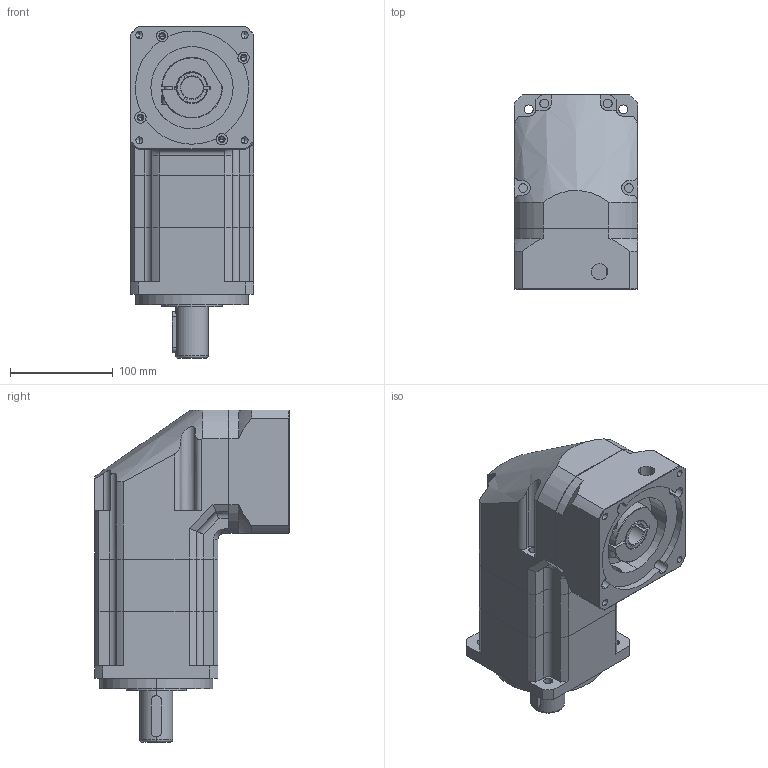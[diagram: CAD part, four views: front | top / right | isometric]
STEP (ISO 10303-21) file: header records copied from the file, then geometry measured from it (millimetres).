
FILE_DESCRIPTION (( 'STEP AP203' ), '1' );
FILE_NAME ('PXR120-L2.STEP', '2020-01-04T02:18:05', ( '' ), ( '' ), 'SwSTEP 2.0', 'SolidWorks 2014', '' );
FILE_SCHEMA (( 'CONFIG_CONTROL_DESIGN' ));
Length unit declared in the file: millimetre
Products named in the file (9): GB／T70．1-2000   内六角圆柱头螺钉M8×20; 邧埴瑩   10x8x40; PB120-齿圈; PB120-本体齿圈; PXR120-XT; PDR120-LJ党蜊唳; PXR120-L2; PDR120-HCZ; PD120   坶踡遠_22
Assembly tree (8 placements, depth 2):
  PXR120-L2
    PDR120-HCZ
    PD120   坶踡遠_22
    GB／T70．1-2000   内六角圆柱头螺钉M8×20
    邧埴瑩   10x8x40
    PB120-齿圈
    PB120-本体齿圈
    PXR120-XT
    PDR120-LJ党蜊唳
Bounding box: 120 x 189.5 x 323 mm (x, y, z)
Volume: 3851010.5 mm3; surface area: 306854.8 mm2
Topology: 8 solids, 8 shells, 394 faces, 1022 edges, 652 vertices
Faces by surface type: cylinder 187, plane 141, cone 53, torus 8, sphere 4, bspline 1
Entity records: 13781 total; most frequent: CARTESIAN_POINT 3029, DIRECTION 2134, ORIENTED_EDGE 2008, EDGE_CURVE 1004, AXIS2_PLACEMENT_3D 823, VERTEX_POINT 652, LINE 488, VECTOR 488
